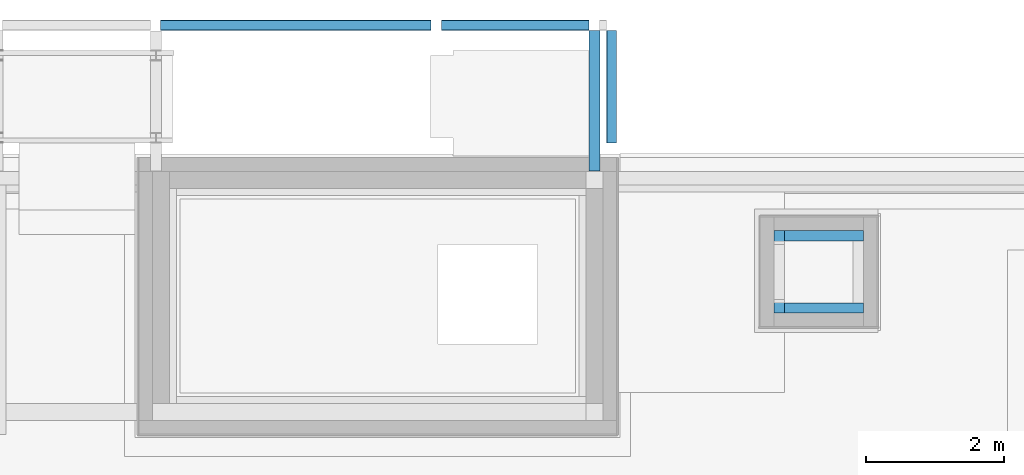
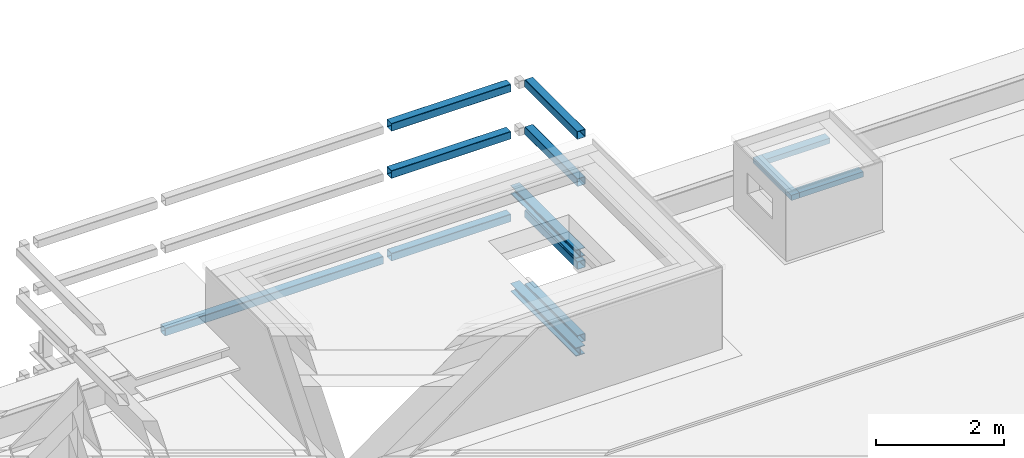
# One storey, part 3 of 8: 13 beams.
"""IFC2X3 building model written with IfcOpenShell, lengths in centimetres."""

from ifc_helpers import new_model, entity, si_unit, converted_unit, derived_unit, direction, frame, frame_2d, origin, place, context, subcontext, project, spatial, polyline, circle_curve, parameter, trimmed, segment, composite_curve, rectangle, i_section, outline, extrude, material, type_object, element, save


model = new_model("IFC2X3")

# Units and contexts
model_context = context("Model", 3, precision=0.001, world=origin(), true_north=direction((6.12303176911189e-17, 1.0)))
body_context = subcontext(model_context, "Body", "Model", "MODEL_VIEW")
ifc_project = project(units=[si_unit("LENGTHUNIT", "METRE", prefix="CENTI"), si_unit("AREAUNIT", "SQUARE_METRE"), si_unit("VOLUMEUNIT", "CUBIC_METRE"), converted_unit("PLANEANGLEUNIT", "DEGREE", entity("IfcRatioMeasure", 0.0174532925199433), si_unit("PLANEANGLEUNIT", "RADIAN"), dimensions=[0, 0, 0, 0, 0, 0, 0]), si_unit("MASSUNIT", "GRAM", prefix="KILO"), derived_unit("MASSDENSITYUNIT", [(si_unit("MASSUNIT", "GRAM", prefix="KILO"), 1), (si_unit("LENGTHUNIT", "METRE"), -3)]), derived_unit("MOMENTOFINERTIAUNIT", [(si_unit("LENGTHUNIT", "METRE"), 4)]), si_unit("TIMEUNIT", "SECOND"), si_unit("FREQUENCYUNIT", "HERTZ"), si_unit("THERMODYNAMICTEMPERATUREUNIT", "DEGREE_CELSIUS"), derived_unit("THERMALTRANSMITTANCEUNIT", [(si_unit("MASSUNIT", "GRAM", prefix="KILO"), 1), (si_unit("THERMODYNAMICTEMPERATUREUNIT", "KELVIN"), -1), (si_unit("TIMEUNIT", "SECOND"), -3)]), derived_unit("VOLUMETRICFLOWRATEUNIT", [(si_unit("LENGTHUNIT", "METRE"), 3), (si_unit("TIMEUNIT", "SECOND"), -1)]), si_unit("ELECTRICCURRENTUNIT", "AMPERE"), si_unit("ELECTRICVOLTAGEUNIT", "VOLT"), si_unit("POWERUNIT", "WATT"), si_unit("FORCEUNIT", "NEWTON", prefix="KILO"), si_unit("ILLUMINANCEUNIT", "LUX"), si_unit("LUMINOUSFLUXUNIT", "LUMEN"), si_unit("LUMINOUSINTENSITYUNIT", "CANDELA"), derived_unit("USERDEFINED", [(si_unit("MASSUNIT", "GRAM", prefix="KILO"), -1), (si_unit("LENGTHUNIT", "METRE"), -2), (si_unit("TIMEUNIT", "SECOND"), 3), (si_unit("LUMINOUSFLUXUNIT", "LUMEN"), 1)]), derived_unit("LINEARVELOCITYUNIT", [(si_unit("LENGTHUNIT", "METRE"), 1), (si_unit("TIMEUNIT", "SECOND"), -1)]), si_unit("PRESSUREUNIT", "PASCAL"), derived_unit("USERDEFINED", [(si_unit("LENGTHUNIT", "METRE"), -2), (si_unit("MASSUNIT", "GRAM", prefix="KILO"), 1), (si_unit("TIMEUNIT", "SECOND"), -2)]), derived_unit("LINEARFORCEUNIT", [(si_unit("MASSUNIT", "GRAM", prefix="KILO"), 1), (si_unit("LENGTHUNIT", "METRE"), 1), (si_unit("TIMEUNIT", "SECOND"), -2), (si_unit("LENGTHUNIT", "METRE"), -1)]), derived_unit("PLANARFORCEUNIT", [(si_unit("MASSUNIT", "GRAM", prefix="KILO"), 1), (si_unit("LENGTHUNIT", "METRE"), 1), (si_unit("TIMEUNIT", "SECOND"), -2), (si_unit("LENGTHUNIT", "METRE"), -2)])], contexts=[model_context])

# Site, building, storey
site_placement = place(None, origin())
site = spatial("IfcSite", under=ifc_project, at=site_placement, Name="Default", CompositionType="ELEMENT")
building_placement = place(site_placement, origin())
building = spatial("IfcBuilding", under=site, at=building_placement, CompositionType="ELEMENT")
storey_placement = place(building_placement, frame((0.0, 0.0, 970.0)))
storey = spatial("IfcBuildingStorey", under=building, at=storey_placement, Name="Poziom 2K +9,70", CompositionType="ELEMENT", Elevation=970.0)

# Beams
ifc_material_1 = material(Name="_Beton C30/37")
beam_type_1 = type_object("IfcBeamType", Name="Beton-belka prostokątna:wieniec 10x15", PredefinedType="NOTDEFINED")
beam_1_placement = place(storey_placement, frame((-65.7651144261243, 1641.62578826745, -142.0)))
element("IfcBeam", 1, at=beam_1_placement, inside=storey, type_object=beam_type_1, material=ifc_material_1, Name="Beton-belka prostokątna:wieniec 10x15", ObjectType="Beton-belka prostokątna:wieniec 10x15", context=body_context, shape_type="SweptSolid", body=[
    extrude(rectangle(XDim=10.0000000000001, YDim=15.0000000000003, at=frame_2d((-1.08357767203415e-13, 5.41788836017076e-13), x_axis=(1.0, 0.0))), frame((0.0, 265.0, 270.0), z_axis=(1.0, 0.0, 0.0), x_axis=(0.0, 0.0, -1.0)), (0.0, 0.0, 1.0), 114.999993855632),
])
beam_2_placement = place(storey_placement, frame((191.734885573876, 1899.12578826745, -142.0), z_axis=(0.0, 0.0, 1.0), x_axis=(0.0, 1.0, 0.0)))
element("IfcBeam", 2, at=beam_2_placement, inside=storey, type_object=beam_type_1, material=ifc_material_1, Name="Beton-belka prostokątna:wieniec 10x15", ObjectType="Beton-belka prostokątna:wieniec 10x15", context=body_context, shape_type="SweptSolid", body=[
    extrude(rectangle(XDim=10.0000000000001, YDim=15.0000000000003, at=frame_2d((-1.08357767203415e-13, 0.0), x_axis=(1.0, 0.0))), frame((0.0, 265.0, 270.0), z_axis=(1.0, 0.0, 0.0), x_axis=(0.0, 0.0, -1.0)), (0.0, 0.0, 1.0), 120.00172251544),
])
beam_3_placement = place(storey_placement, frame((-65.7651144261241, 1746.62751078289, -142.0)))
element("IfcBeam", 3, at=beam_3_placement, inside=storey, type_object=beam_type_1, material=ifc_material_1, Name="Beton-belka prostokątna:wieniec 10x15", ObjectType="Beton-belka prostokątna:wieniec 10x15", context=body_context, shape_type="SweptSolid", body=[
    extrude(rectangle(XDim=10.0000000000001, YDim=15.0000000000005, at=frame_2d((-1.08357767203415e-13, 4.33431068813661e-13), x_axis=(1.0, 0.0))), frame((0.0, 265.0, 270.0), z_axis=(1.0, 0.0, 0.0), x_axis=(0.0, 0.0, -1.0)), (0.0, 0.0, 1.0), 114.999993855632),
])
ifc_material_2 = material(Name="Stal konstrukcyjna - S235")
beam_type_2 = type_object("IfcBeamType", Name="STAL RK - Ksztaltowniki zamkniete kwadratowe:RK150x6", PredefinedType="NOTDEFINED")
beam_4_placement = place(storey_placement, frame((-343.072227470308, 2317.08692648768, 84.9999646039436), z_axis=(0.0, 0.0, 1.0), x_axis=(-1.0, 0.0, 0.0)))
element("IfcBeam", 4, at=beam_4_placement, inside=storey, type_object=beam_type_2, material=ifc_material_2, Name="STAL RK - Ksztaltowniki zamkniete kwadratowe:RK150x6", ObjectType="STAL RK - Ksztaltowniki zamkniete kwadratowe:RK150x6", context=body_context, shape_type="SweptSolid", body=[
    extrude(outline(composite_curve([segment(trimmed(circle_curve(frame_2d((-6.29999999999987, -6.29999999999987), x_axis=(1.0, 0.0)), 1.2), [parameter(180.0)], [parameter(270.0)], True, "PARAMETER"), True, "CONTINUOUS"), segment(polyline([(-6.29999999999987, -7.50000000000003), (6.29999999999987, -7.50000000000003)]), True, "CONTINUOUS"), segment(trimmed(circle_curve(frame_2d((6.3000000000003, -6.30000000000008), x_axis=(1.0, 0.0)), 1.19999999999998), [parameter(270.0)], [parameter(360.0)], True, "PARAMETER"), True, "CONTINUOUS"), segment(polyline([(7.50000000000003, -6.30000000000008), (7.50000000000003, 6.29999999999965)]), True, "CONTINUOUS"), segment(trimmed(circle_curve(frame_2d((6.29999999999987, 6.29999999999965), x_axis=(1.0, 0.0)), 1.20000000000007), [parameter(360.0)], [parameter(89.9999999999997)], True, "PARAMETER"), True, "CONTINUOUS"), segment(polyline([(6.29999999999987, 7.49999999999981), (-6.30000000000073, 7.49999999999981)]), True, "CONTINUOUS"), segment(trimmed(circle_curve(frame_2d((-6.30000000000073, 6.30000000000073), x_axis=(1.0, 0.0)), 1.19999999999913), [parameter(89.9999999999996)], [parameter(179.999999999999)], True, "PARAMETER"), True, "CONTINUOUS"), segment(polyline([(-7.50000000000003, 6.30000000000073), (-7.50000000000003, -6.29999999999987)]), True, "CONTINUOUS")], self_intersect=False), holes=[composite_curve([segment(polyline([(-6.90000000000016, -6.29999999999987), (-6.90000000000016, 6.30000000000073)]), True, "CONTINUOUS"), segment(trimmed(circle_curve(frame_2d((-6.30000000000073, 6.30000000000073), x_axis=(1.0, 0.0)), 0.59999999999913), [parameter(90.0000000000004)], [parameter(180.0)], True, "PARAMETER"), False, "CONTINUOUS"), segment(polyline([(-6.30000000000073, 6.89999999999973), (6.29999999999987, 6.89999999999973)]), True, "CONTINUOUS"), segment(trimmed(circle_curve(frame_2d((6.29999999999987, 6.29999999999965), x_axis=(1.0, 0.0)), 0.600000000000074), [parameter(4.07110999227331e-13)], [parameter(90.0000000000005)], True, "PARAMETER"), False, "CONTINUOUS"), segment(polyline([(6.90000000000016, 6.29999999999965), (6.90000000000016, -6.30000000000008)]), True, "CONTINUOUS"), segment(trimmed(circle_curve(frame_2d((6.3000000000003, -6.30000000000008), x_axis=(1.0, 0.0)), 0.59999999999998), [parameter(270.0)], [parameter(5.08888749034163e-13)], True, "PARAMETER"), False, "CONTINUOUS"), segment(polyline([(6.29999999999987, -6.89999999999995), (-6.29999999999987, -6.89999999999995)]), True, "CONTINUOUS"), segment(trimmed(circle_curve(frame_2d((-6.29999999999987, -6.29999999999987), x_axis=(1.0, 0.0)), 0.600000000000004), [parameter(180.0)], [parameter(270.0)], True, "PARAMETER"), False, "CONTINUOUS")], self_intersect=False)]), frame((6.19997373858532, -0.259999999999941, 7.50000000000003), z_axis=(1.0, 0.0, 0.0), x_axis=(0.0, -1.0, 0.0)), (0.0, 0.0, 1.0), 214.9),
])
beam_5_placement = place(storey_placement, frame((-343.072227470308, 2317.08692648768, 175.0), z_axis=(0.0, 0.0, 1.0), x_axis=(-1.0, 0.0, 0.0)))
element("IfcBeam", 5, at=beam_5_placement, inside=storey, type_object=beam_type_2, material=ifc_material_2, Name="STAL RK - Ksztaltowniki zamkniete kwadratowe:RK150x6", ObjectType="STAL RK - Ksztaltowniki zamkniete kwadratowe:RK150x6", context=body_context, shape_type="SweptSolid", body=[
    extrude(outline(composite_curve([segment(trimmed(circle_curve(frame_2d((-6.29999999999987, -6.29999999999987), x_axis=(1.0, 0.0)), 1.2), [parameter(180.0)], [parameter(270.0)], True, "PARAMETER"), True, "CONTINUOUS"), segment(polyline([(-6.29999999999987, -7.50000000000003), (6.29999999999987, -7.50000000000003)]), True, "CONTINUOUS"), segment(trimmed(circle_curve(frame_2d((6.3000000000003, -6.30000000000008), x_axis=(1.0, 0.0)), 1.19999999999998), [parameter(270.0)], [parameter(360.0)], True, "PARAMETER"), True, "CONTINUOUS"), segment(polyline([(7.50000000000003, -6.30000000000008), (7.50000000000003, 6.29999999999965)]), True, "CONTINUOUS"), segment(trimmed(circle_curve(frame_2d((6.29999999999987, 6.29999999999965), x_axis=(1.0, 0.0)), 1.20000000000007), [parameter(360.0)], [parameter(89.9999999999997)], True, "PARAMETER"), True, "CONTINUOUS"), segment(polyline([(6.29999999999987, 7.49999999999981), (-6.30000000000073, 7.49999999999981)]), True, "CONTINUOUS"), segment(trimmed(circle_curve(frame_2d((-6.30000000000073, 6.30000000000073), x_axis=(1.0, 0.0)), 1.19999999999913), [parameter(89.9999999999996)], [parameter(179.999999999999)], True, "PARAMETER"), True, "CONTINUOUS"), segment(polyline([(-7.50000000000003, 6.30000000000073), (-7.50000000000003, -6.29999999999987)]), True, "CONTINUOUS")], self_intersect=False), holes=[composite_curve([segment(polyline([(-6.90000000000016, -6.29999999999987), (-6.90000000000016, 6.30000000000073)]), True, "CONTINUOUS"), segment(trimmed(circle_curve(frame_2d((-6.30000000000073, 6.30000000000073), x_axis=(1.0, 0.0)), 0.59999999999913), [parameter(90.0000000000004)], [parameter(180.0)], True, "PARAMETER"), False, "CONTINUOUS"), segment(polyline([(-6.30000000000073, 6.89999999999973), (6.29999999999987, 6.89999999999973)]), True, "CONTINUOUS"), segment(trimmed(circle_curve(frame_2d((6.29999999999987, 6.29999999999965), x_axis=(1.0, 0.0)), 0.600000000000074), [parameter(4.07110999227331e-13)], [parameter(90.0000000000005)], True, "PARAMETER"), False, "CONTINUOUS"), segment(polyline([(6.90000000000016, 6.29999999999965), (6.90000000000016, -6.30000000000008)]), True, "CONTINUOUS"), segment(trimmed(circle_curve(frame_2d((6.3000000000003, -6.30000000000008), x_axis=(1.0, 0.0)), 0.59999999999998), [parameter(270.0)], [parameter(5.08888749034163e-13)], True, "PARAMETER"), False, "CONTINUOUS"), segment(polyline([(6.29999999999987, -6.89999999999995), (-6.29999999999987, -6.89999999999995)]), True, "CONTINUOUS"), segment(trimmed(circle_curve(frame_2d((-6.29999999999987, -6.29999999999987), x_axis=(1.0, 0.0)), 0.600000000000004), [parameter(180.0)], [parameter(270.0)], True, "PARAMETER"), False, "CONTINUOUS")], self_intersect=False)]), frame((6.19997373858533, -0.259999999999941, 7.50000000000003), z_axis=(1.0, 0.0, 0.0), x_axis=(0.0, -1.0, 0.0)), (0.0, 0.0, 1.0), 214.9),
])
beam_6_placement = place(storey_placement, frame((-343.072227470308, 2317.08692648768, -72.6000025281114), z_axis=(0.0, 0.0, 1.0), x_axis=(-1.0, 0.0, 0.0)))
element("IfcBeam", 6, at=beam_6_placement, inside=storey, type_object=beam_type_2, material=ifc_material_2, Name="STAL RK - Ksztaltowniki zamkniete kwadratowe:RK150x6", ObjectType="STAL RK - Ksztaltowniki zamkniete kwadratowe:RK150x6", context=body_context, shape_type="SweptSolid", body=[
    extrude(outline(composite_curve([segment(trimmed(circle_curve(frame_2d((-6.29999999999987, -6.30000000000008), x_axis=(1.0, 0.0)), 1.2), [parameter(180.0)], [parameter(270.0)], True, "PARAMETER"), True, "CONTINUOUS"), segment(polyline([(-6.29999999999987, -7.50000000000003), (6.29999999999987, -7.50000000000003)]), True, "CONTINUOUS"), segment(trimmed(circle_curve(frame_2d((6.3000000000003, -6.30000000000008), x_axis=(1.0, 0.0)), 1.19999999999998), [parameter(270.0)], [parameter(360.0)], True, "PARAMETER"), True, "CONTINUOUS"), segment(polyline([(7.50000000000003, -6.30000000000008), (7.50000000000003, 6.29999999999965)]), True, "CONTINUOUS"), segment(trimmed(circle_curve(frame_2d((6.29999999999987, 6.29999999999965), x_axis=(1.0, 0.0)), 1.20000000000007), [parameter(360.0)], [parameter(89.9999999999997)], True, "PARAMETER"), True, "CONTINUOUS"), segment(polyline([(6.29999999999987, 7.4999999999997), (-6.30000000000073, 7.4999999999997)]), True, "CONTINUOUS"), segment(trimmed(circle_curve(frame_2d((-6.30000000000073, 6.30000000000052), x_axis=(1.0, 0.0)), 1.19999999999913), [parameter(89.9999999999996)], [parameter(179.999999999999)], True, "PARAMETER"), True, "CONTINUOUS"), segment(polyline([(-7.50000000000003, 6.30000000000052), (-7.50000000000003, -6.30000000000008)]), True, "CONTINUOUS")], self_intersect=False), holes=[composite_curve([segment(polyline([(-6.90000000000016, -6.30000000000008), (-6.90000000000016, 6.30000000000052)]), True, "CONTINUOUS"), segment(trimmed(circle_curve(frame_2d((-6.30000000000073, 6.30000000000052), x_axis=(1.0, 0.0)), 0.59999999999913), [parameter(90.0000000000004)], [parameter(180.0)], True, "PARAMETER"), False, "CONTINUOUS"), segment(polyline([(-6.30000000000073, 6.89999999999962), (6.29999999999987, 6.89999999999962)]), True, "CONTINUOUS"), segment(trimmed(circle_curve(frame_2d((6.29999999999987, 6.29999999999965), x_axis=(1.0, 0.0)), 0.600000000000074), [parameter(4.07110999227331e-13)], [parameter(90.0000000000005)], True, "PARAMETER"), False, "CONTINUOUS"), segment(polyline([(6.90000000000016, 6.29999999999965), (6.90000000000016, -6.30000000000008)]), True, "CONTINUOUS"), segment(trimmed(circle_curve(frame_2d((6.3000000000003, -6.30000000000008), x_axis=(1.0, 0.0)), 0.59999999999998), [parameter(270.0)], [parameter(5.08888749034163e-13)], True, "PARAMETER"), False, "CONTINUOUS"), segment(polyline([(6.29999999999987, -6.90000000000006), (-6.29999999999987, -6.90000000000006)]), True, "CONTINUOUS"), segment(trimmed(circle_curve(frame_2d((-6.29999999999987, -6.30000000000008), x_axis=(1.0, 0.0)), 0.600000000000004), [parameter(180.0)], [parameter(270.0)], True, "PARAMETER"), False, "CONTINUOUS")], self_intersect=False)]), frame((6.19997373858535, -0.259999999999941, 7.49999999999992), z_axis=(1.0, 0.0, 0.0), x_axis=(0.0, -1.0, 0.0)), (0.0, 0.0, 1.0), 214.9),
])
beam_7_placement = place(storey_placement, frame((-576.765120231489, 2317.08692648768, -72.600002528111), z_axis=(0.0, 0.0, 1.0), x_axis=(-1.0, 0.0, 0.0)))
element("IfcBeam", 7, at=beam_7_placement, inside=storey, type_object=beam_type_2, material=ifc_material_2, Name="STAL RK - Ksztaltowniki zamkniete kwadratowe:RK150x6", ObjectType="STAL RK - Ksztaltowniki zamkniete kwadratowe:RK150x6", context=body_context, shape_type="SweptSolid", body=[
    extrude(outline(composite_curve([segment(trimmed(circle_curve(frame_2d((-6.29999999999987, -6.29999999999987), x_axis=(1.0, 0.0)), 1.2), [parameter(180.0)], [parameter(270.0)], True, "PARAMETER"), True, "CONTINUOUS"), segment(polyline([(-6.29999999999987, -7.49999999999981), (6.29999999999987, -7.49999999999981)]), True, "CONTINUOUS"), segment(trimmed(circle_curve(frame_2d((6.3000000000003, -6.29999999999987), x_axis=(1.0, 0.0)), 1.19999999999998), [parameter(270.0)], [parameter(360.0)], True, "PARAMETER"), True, "CONTINUOUS"), segment(polyline([(7.50000000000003, -6.29999999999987), (7.50000000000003, 6.29999999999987)]), True, "CONTINUOUS"), segment(trimmed(circle_curve(frame_2d((6.29999999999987, 6.29999999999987), x_axis=(1.0, 0.0)), 1.20000000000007), [parameter(360.0)], [parameter(89.9999999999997)], True, "PARAMETER"), True, "CONTINUOUS"), segment(polyline([(6.29999999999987, 7.49999999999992), (-6.30000000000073, 7.49999999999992)]), True, "CONTINUOUS"), segment(trimmed(circle_curve(frame_2d((-6.30000000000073, 6.30000000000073), x_axis=(1.0, 0.0)), 1.19999999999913), [parameter(89.9999999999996)], [parameter(179.999999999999)], True, "PARAMETER"), True, "CONTINUOUS"), segment(polyline([(-7.50000000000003, 6.30000000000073), (-7.50000000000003, -6.29999999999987)]), True, "CONTINUOUS")], self_intersect=False), holes=[composite_curve([segment(polyline([(-6.90000000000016, -6.29999999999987), (-6.90000000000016, 6.30000000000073)]), True, "CONTINUOUS"), segment(trimmed(circle_curve(frame_2d((-6.30000000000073, 6.30000000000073), x_axis=(1.0, 0.0)), 0.59999999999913), [parameter(90.0000000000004)], [parameter(180.0)], True, "PARAMETER"), False, "CONTINUOUS"), segment(polyline([(-6.30000000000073, 6.89999999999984), (6.29999999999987, 6.89999999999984)]), True, "CONTINUOUS"), segment(trimmed(circle_curve(frame_2d((6.29999999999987, 6.29999999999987), x_axis=(1.0, 0.0)), 0.600000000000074), [parameter(4.07110999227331e-13)], [parameter(90.0000000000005)], True, "PARAMETER"), False, "CONTINUOUS"), segment(polyline([(6.90000000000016, 6.29999999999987), (6.90000000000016, -6.29999999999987)]), True, "CONTINUOUS"), segment(trimmed(circle_curve(frame_2d((6.3000000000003, -6.29999999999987), x_axis=(1.0, 0.0)), 0.59999999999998), [parameter(270.0)], [parameter(5.08888749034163e-13)], True, "PARAMETER"), False, "CONTINUOUS"), segment(polyline([(6.29999999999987, -6.89999999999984), (-6.29999999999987, -6.89999999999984)]), True, "CONTINUOUS"), segment(trimmed(circle_curve(frame_2d((-6.29999999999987, -6.29999999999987), x_axis=(1.0, 0.0)), 0.600000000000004), [parameter(180.0)], [parameter(270.0)], True, "PARAMETER"), False, "CONTINUOUS")], self_intersect=False)]), frame((2.49999999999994, -0.259999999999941, 7.50000000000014), z_axis=(1.0, 0.0, 0.0), x_axis=(0.0, -1.0, 0.0)), (0.0, 0.0, 1.0), 392.929189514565),
])
beam_8_placement = place(storey_placement, frame((-316.504944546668, 2309.95606606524, 190.0), z_axis=(0.0, 0.0, 1.0), x_axis=(0.0, -1.0, 0.0)))
element("IfcBeam", 8, at=beam_8_placement, inside=storey, type_object=beam_type_2, material=ifc_material_2, Name="STAL RK - Ksztaltowniki zamkniete kwadratowe:RK150x6", ObjectType="STAL RK - Ksztaltowniki zamkniete kwadratowe:RK150x6", context=body_context, shape_type="SweptSolid", body=[
    extrude(outline(composite_curve([segment(trimmed(circle_curve(frame_2d((-6.29999999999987, -6.29999999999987), x_axis=(1.0, 0.0)), 1.2), [parameter(180.0)], [parameter(270.0)], True, "PARAMETER"), True, "CONTINUOUS"), segment(polyline([(-6.29999999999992, -7.50000000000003), (6.30000000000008, -7.50000000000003)]), True, "CONTINUOUS"), segment(trimmed(circle_curve(frame_2d((6.30000000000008, -6.30000000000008), x_axis=(1.0, 0.0)), 1.19999999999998), [parameter(270.0)], [parameter(360.0)], True, "PARAMETER"), True, "CONTINUOUS"), segment(polyline([(7.50000000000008, -6.30000000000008), (7.50000000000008, 6.29999999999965)]), True, "CONTINUOUS"), segment(trimmed(circle_curve(frame_2d((6.30000000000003, 6.29999999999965), x_axis=(1.0, 0.0)), 1.20000000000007), [parameter(360.0)], [parameter(89.9999999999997)], True, "PARAMETER"), True, "CONTINUOUS"), segment(polyline([(6.29999999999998, 7.49999999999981), (-6.30000000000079, 7.49999999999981)]), True, "CONTINUOUS"), segment(trimmed(circle_curve(frame_2d((-6.30000000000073, 6.30000000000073), x_axis=(1.0, 0.0)), 1.19999999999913), [parameter(89.9999999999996)], [parameter(179.999999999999)], True, "PARAMETER"), True, "CONTINUOUS"), segment(polyline([(-7.49999999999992, 6.30000000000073), (-7.49999999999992, -6.29999999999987)]), True, "CONTINUOUS")], self_intersect=False), holes=[composite_curve([segment(polyline([(-6.89999999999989, -6.29999999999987), (-6.89999999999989, 6.30000000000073)]), True, "CONTINUOUS"), segment(trimmed(circle_curve(frame_2d((-6.30000000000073, 6.30000000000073), x_axis=(1.0, 0.0)), 0.59999999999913), [parameter(90.0000000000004)], [parameter(180.0)], True, "PARAMETER"), False, "CONTINUOUS"), segment(polyline([(-6.30000000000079, 6.89999999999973), (6.29999999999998, 6.89999999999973)]), True, "CONTINUOUS"), segment(trimmed(circle_curve(frame_2d((6.30000000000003, 6.29999999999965), x_axis=(1.0, 0.0)), 0.600000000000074), [parameter(4.07110999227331e-13)], [parameter(90.0000000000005)], True, "PARAMETER"), False, "CONTINUOUS"), segment(polyline([(6.90000000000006, 6.29999999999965), (6.90000000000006, -6.30000000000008)]), True, "CONTINUOUS"), segment(trimmed(circle_curve(frame_2d((6.30000000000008, -6.30000000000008), x_axis=(1.0, 0.0)), 0.59999999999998), [parameter(270.0)], [parameter(5.08888749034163e-13)], True, "PARAMETER"), False, "CONTINUOUS"), segment(polyline([(6.30000000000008, -6.89999999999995), (-6.29999999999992, -6.89999999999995)]), True, "CONTINUOUS"), segment(trimmed(circle_curve(frame_2d((-6.29999999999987, -6.29999999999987), x_axis=(1.0, 0.0)), 0.600000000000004), [parameter(180.0)], [parameter(270.0)], True, "PARAMETER"), False, "CONTINUOUS")], self_intersect=False)]), frame((0.0436149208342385, -0.260000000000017, -7.50000000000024), z_axis=(1.0, 0.0, 0.0), x_axis=(0.0, -1.0, 0.0)), (0.0, 0.0, 1.0), 163.8),
])
beam_9_placement = place(storey_placement, frame((-316.504944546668, 2309.95606606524, 100.00000207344), z_axis=(0.0, 0.0, 1.0), x_axis=(0.0, -1.0, 0.0)))
element("IfcBeam", 9, at=beam_9_placement, inside=storey, type_object=beam_type_2, material=ifc_material_2, Name="STAL RK - Ksztaltowniki zamkniete kwadratowe:RK150x6", ObjectType="STAL RK - Ksztaltowniki zamkniete kwadratowe:RK150x6", context=body_context, shape_type="SweptSolid", body=[
    extrude(outline(composite_curve([segment(trimmed(circle_curve(frame_2d((-6.29999999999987, -6.29999999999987), x_axis=(1.0, 0.0)), 1.2), [parameter(180.0)], [parameter(270.0)], True, "PARAMETER"), True, "CONTINUOUS"), segment(polyline([(-6.29999999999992, -7.50000000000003), (6.30000000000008, -7.50000000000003)]), True, "CONTINUOUS"), segment(trimmed(circle_curve(frame_2d((6.30000000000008, -6.30000000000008), x_axis=(1.0, 0.0)), 1.19999999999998), [parameter(270.0)], [parameter(360.0)], True, "PARAMETER"), True, "CONTINUOUS"), segment(polyline([(7.50000000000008, -6.30000000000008), (7.50000000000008, 6.29999999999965)]), True, "CONTINUOUS"), segment(trimmed(circle_curve(frame_2d((6.30000000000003, 6.29999999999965), x_axis=(1.0, 0.0)), 1.20000000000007), [parameter(360.0)], [parameter(89.9999999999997)], True, "PARAMETER"), True, "CONTINUOUS"), segment(polyline([(6.29999999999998, 7.49999999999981), (-6.30000000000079, 7.49999999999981)]), True, "CONTINUOUS"), segment(trimmed(circle_curve(frame_2d((-6.30000000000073, 6.30000000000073), x_axis=(1.0, 0.0)), 1.19999999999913), [parameter(89.9999999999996)], [parameter(179.999999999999)], True, "PARAMETER"), True, "CONTINUOUS"), segment(polyline([(-7.49999999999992, 6.30000000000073), (-7.49999999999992, -6.29999999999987)]), True, "CONTINUOUS")], self_intersect=False), holes=[composite_curve([segment(polyline([(-6.89999999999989, -6.29999999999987), (-6.89999999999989, 6.30000000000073)]), True, "CONTINUOUS"), segment(trimmed(circle_curve(frame_2d((-6.30000000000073, 6.30000000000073), x_axis=(1.0, 0.0)), 0.59999999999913), [parameter(90.0000000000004)], [parameter(180.0)], True, "PARAMETER"), False, "CONTINUOUS"), segment(polyline([(-6.30000000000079, 6.89999999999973), (6.29999999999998, 6.89999999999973)]), True, "CONTINUOUS"), segment(trimmed(circle_curve(frame_2d((6.30000000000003, 6.29999999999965), x_axis=(1.0, 0.0)), 0.600000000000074), [parameter(4.07110999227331e-13)], [parameter(90.0000000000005)], True, "PARAMETER"), False, "CONTINUOUS"), segment(polyline([(6.90000000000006, 6.29999999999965), (6.90000000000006, -6.30000000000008)]), True, "CONTINUOUS"), segment(trimmed(circle_curve(frame_2d((6.30000000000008, -6.30000000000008), x_axis=(1.0, 0.0)), 0.59999999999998), [parameter(270.0)], [parameter(5.08888749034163e-13)], True, "PARAMETER"), False, "CONTINUOUS"), segment(polyline([(6.30000000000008, -6.89999999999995), (-6.29999999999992, -6.89999999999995)]), True, "CONTINUOUS"), segment(trimmed(circle_curve(frame_2d((-6.29999999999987, -6.29999999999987), x_axis=(1.0, 0.0)), 0.600000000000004), [parameter(180.0)], [parameter(270.0)], True, "PARAMETER"), False, "CONTINUOUS")], self_intersect=False)]), frame((0.0436149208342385, -0.260000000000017, -7.50000000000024), z_axis=(1.0, 0.0, 0.0), x_axis=(0.0, -1.0, 0.0)), (0.0, 0.0, 1.0), 163.8),
])
beam_10_placement = place(storey_placement, frame((-316.504944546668, 2309.95606606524, -58.2999789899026), z_axis=(0.0, 0.0, 1.0), x_axis=(0.0, -1.0, 0.0)))
element("IfcBeam", 10, at=beam_10_placement, inside=storey, type_object=beam_type_2, material=ifc_material_2, Name="STAL RK - Ksztaltowniki zamkniete kwadratowe:RK150x6", ObjectType="STAL RK - Ksztaltowniki zamkniete kwadratowe:RK150x6", context=body_context, shape_type="SweptSolid", body=[
    extrude(outline(composite_curve([segment(trimmed(circle_curve(frame_2d((-6.29999999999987, -6.29999999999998), x_axis=(1.0, 0.0)), 1.2), [parameter(180.0)], [parameter(270.0)], True, "PARAMETER"), True, "CONTINUOUS"), segment(polyline([(-6.29999999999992, -7.49999999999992), (6.30000000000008, -7.49999999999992)]), True, "CONTINUOUS"), segment(trimmed(circle_curve(frame_2d((6.30000000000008, -6.29999999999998), x_axis=(1.0, 0.0)), 1.19999999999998), [parameter(270.0)], [parameter(360.0)], True, "PARAMETER"), True, "CONTINUOUS"), segment(polyline([(7.50000000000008, -6.29999999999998), (7.50000000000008, 6.29999999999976)]), True, "CONTINUOUS"), segment(trimmed(circle_curve(frame_2d((6.30000000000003, 6.29999999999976), x_axis=(1.0, 0.0)), 1.20000000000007), [parameter(360.0)], [parameter(89.9999999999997)], True, "PARAMETER"), True, "CONTINUOUS"), segment(polyline([(6.29999999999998, 7.49999999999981), (-6.30000000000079, 7.49999999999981)]), True, "CONTINUOUS"), segment(trimmed(circle_curve(frame_2d((-6.30000000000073, 6.30000000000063), x_axis=(1.0, 0.0)), 1.19999999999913), [parameter(89.9999999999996)], [parameter(179.999999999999)], True, "PARAMETER"), True, "CONTINUOUS"), segment(polyline([(-7.49999999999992, 6.30000000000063), (-7.49999999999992, -6.29999999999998)]), True, "CONTINUOUS")], self_intersect=False), holes=[composite_curve([segment(polyline([(-6.89999999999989, -6.29999999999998), (-6.89999999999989, 6.30000000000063)]), True, "CONTINUOUS"), segment(trimmed(circle_curve(frame_2d((-6.30000000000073, 6.30000000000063), x_axis=(1.0, 0.0)), 0.59999999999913), [parameter(90.0000000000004)], [parameter(180.0)], True, "PARAMETER"), False, "CONTINUOUS"), segment(polyline([(-6.30000000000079, 6.89999999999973), (6.29999999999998, 6.89999999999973)]), True, "CONTINUOUS"), segment(trimmed(circle_curve(frame_2d((6.30000000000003, 6.29999999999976), x_axis=(1.0, 0.0)), 0.600000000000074), [parameter(4.07110999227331e-13)], [parameter(90.0000000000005)], True, "PARAMETER"), False, "CONTINUOUS"), segment(polyline([(6.90000000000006, 6.29999999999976), (6.90000000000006, -6.29999999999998)]), True, "CONTINUOUS"), segment(trimmed(circle_curve(frame_2d((6.30000000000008, -6.29999999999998), x_axis=(1.0, 0.0)), 0.59999999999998), [parameter(270.0)], [parameter(5.08888749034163e-13)], True, "PARAMETER"), False, "CONTINUOUS"), segment(polyline([(6.30000000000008, -6.89999999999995), (-6.29999999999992, -6.89999999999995)]), True, "CONTINUOUS"), segment(trimmed(circle_curve(frame_2d((-6.29999999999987, -6.29999999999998), x_axis=(1.0, 0.0)), 0.600000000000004), [parameter(180.0)], [parameter(270.0)], True, "PARAMETER"), False, "CONTINUOUS")], self_intersect=False)]), frame((0.0436149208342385, -0.260000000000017, -7.50000000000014), z_axis=(1.0, 0.0, 0.0), x_axis=(0.0, -1.0, 0.0)), (0.0, 0.0, 1.0), 163.8),
])
beam_11_placement = place(storey_placement, frame((-316.504944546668, 2309.95606606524, -199.0), z_axis=(0.0, 0.0, 1.0), x_axis=(0.0, -1.0, 0.0)))
element("IfcBeam", 11, at=beam_11_placement, inside=storey, type_object=beam_type_2, material=ifc_material_2, Name="STAL RK - Ksztaltowniki zamkniete kwadratowe:RK150x6", ObjectType="STAL RK - Ksztaltowniki zamkniete kwadratowe:RK150x6", context=body_context, shape_type="SweptSolid", body=[
    extrude(outline(composite_curve([segment(trimmed(circle_curve(frame_2d((-6.29999999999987, -6.30000000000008), x_axis=(1.0, 0.0)), 1.2), [parameter(180.0)], [parameter(270.0)], True, "PARAMETER"), True, "CONTINUOUS"), segment(polyline([(-6.29999999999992, -7.50000000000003), (6.30000000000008, -7.50000000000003)]), True, "CONTINUOUS"), segment(trimmed(circle_curve(frame_2d((6.30000000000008, -6.30000000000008), x_axis=(1.0, 0.0)), 1.19999999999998), [parameter(270.0)], [parameter(360.0)], True, "PARAMETER"), True, "CONTINUOUS"), segment(polyline([(7.50000000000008, -6.30000000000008), (7.50000000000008, 6.29999999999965)]), True, "CONTINUOUS"), segment(trimmed(circle_curve(frame_2d((6.30000000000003, 6.29999999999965), x_axis=(1.0, 0.0)), 1.20000000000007), [parameter(360.0)], [parameter(89.9999999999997)], True, "PARAMETER"), True, "CONTINUOUS"), segment(polyline([(6.29999999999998, 7.4999999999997), (-6.30000000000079, 7.4999999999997)]), True, "CONTINUOUS"), segment(trimmed(circle_curve(frame_2d((-6.30000000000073, 6.30000000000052), x_axis=(1.0, 0.0)), 1.19999999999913), [parameter(89.9999999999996)], [parameter(179.999999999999)], True, "PARAMETER"), True, "CONTINUOUS"), segment(polyline([(-7.49999999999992, 6.30000000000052), (-7.49999999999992, -6.30000000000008)]), True, "CONTINUOUS")], self_intersect=False), holes=[composite_curve([segment(polyline([(-6.89999999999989, -6.30000000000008), (-6.89999999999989, 6.30000000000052)]), True, "CONTINUOUS"), segment(trimmed(circle_curve(frame_2d((-6.30000000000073, 6.30000000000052), x_axis=(1.0, 0.0)), 0.59999999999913), [parameter(90.0000000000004)], [parameter(180.0)], True, "PARAMETER"), False, "CONTINUOUS"), segment(polyline([(-6.30000000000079, 6.89999999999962), (6.29999999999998, 6.89999999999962)]), True, "CONTINUOUS"), segment(trimmed(circle_curve(frame_2d((6.30000000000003, 6.29999999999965), x_axis=(1.0, 0.0)), 0.600000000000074), [parameter(4.07110999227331e-13)], [parameter(90.0000000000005)], True, "PARAMETER"), False, "CONTINUOUS"), segment(polyline([(6.90000000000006, 6.29999999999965), (6.90000000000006, -6.30000000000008)]), True, "CONTINUOUS"), segment(trimmed(circle_curve(frame_2d((6.30000000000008, -6.30000000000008), x_axis=(1.0, 0.0)), 0.59999999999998), [parameter(270.0)], [parameter(5.08888749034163e-13)], True, "PARAMETER"), False, "CONTINUOUS"), segment(polyline([(6.30000000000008, -6.90000000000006), (-6.29999999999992, -6.90000000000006)]), True, "CONTINUOUS"), segment(trimmed(circle_curve(frame_2d((-6.29999999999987, -6.30000000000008), x_axis=(1.0, 0.0)), 0.600000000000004), [parameter(180.0)], [parameter(270.0)], True, "PARAMETER"), False, "CONTINUOUS")], self_intersect=False)]), frame((0.0436149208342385, -0.260000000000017, -7.50000000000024), z_axis=(1.0, 0.0, 0.0), x_axis=(0.0, -1.0, 0.0)), (0.0, 0.0, 1.0), 163.8),
])
beam_type_3 = type_object("IfcBeamType", Name="HE-B:HEB160", PredefinedType="NOTDEFINED")
beam_12_placement = place(storey_placement, frame((-341.764944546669, 2309.7124511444, -189.0), z_axis=(0.0, 0.0, 1.0), x_axis=(0.0, -1.0, 0.0)))
element("IfcBeam", 12, at=beam_12_placement, inside=storey, type_object=beam_type_3, material=ifc_material_2, Name="HE-B:HEB160", ObjectType="HE-B:HEB160", context=body_context, shape_type="SweptSolid", body=[
    extrude(i_section(OverallWidth=16.0, OverallDepth=16.0, WebThickness=0.799999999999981, FlangeThickness=1.30000000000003, FilletRadius=1.49999999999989, at=frame_2d((2.1627144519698e-13, -2.66453525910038e-14), x_axis=(0.0, 1.0))), frame((-0.220000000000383, 0.0, -8.0), z_axis=(1.0, 0.0, 0.0), x_axis=(0.0, 0.0, -1.0)), (0.0, 0.0, 1.0), 204.22),
])
beam_13_placement = place(storey_placement, frame((-341.764944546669, 2309.7124511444, -2.39999999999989), z_axis=(0.0, 0.0, 1.0), x_axis=(0.0, -1.0, 0.0)))
element("IfcBeam", 13, at=beam_13_placement, inside=storey, type_object=beam_type_3, material=ifc_material_2, Name="HE-B:HEB160", ObjectType="HE-B:HEB160", context=body_context, shape_type="SweptSolid", body=[
    extrude(i_section(OverallWidth=16.0, OverallDepth=16.0, WebThickness=0.799999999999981, FlangeThickness=1.30000000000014, FilletRadius=1.49999999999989, at=frame_2d((0.0, -2.66453525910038e-14), x_axis=(0.0, 1.0))), frame((-0.209999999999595, 0.0, -8.0), z_axis=(1.0, 0.0, 0.0), x_axis=(0.0, 0.0, -1.0)), (0.0, 0.0, 1.0), 204.21),
])

save(model, "model.ifc")
